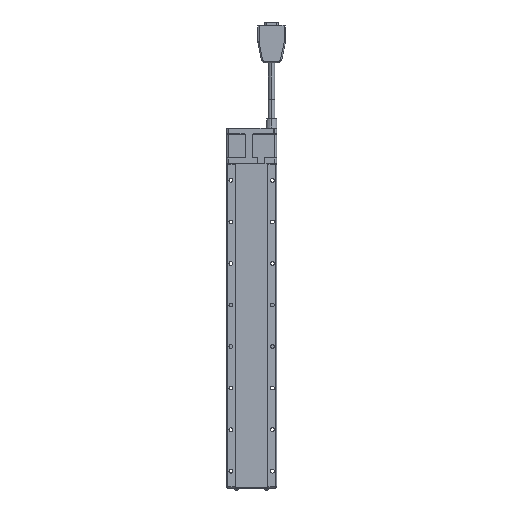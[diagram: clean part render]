
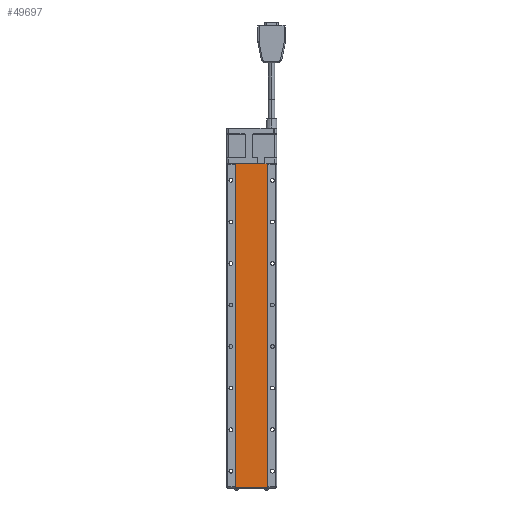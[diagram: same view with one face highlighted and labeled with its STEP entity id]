
A CAD part, front view. The second image highlights one B-rep face of the part: STEP entity #49697.
In plain terms, the highlighted planar face has unit normal (0, -1, 0).
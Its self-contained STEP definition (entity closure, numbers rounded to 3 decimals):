
#8667 = CARTESIAN_POINT ( 'NONE',  ( -19.3, 0.8, 389.8 ) ) ;
#9026 = CARTESIAN_POINT ( 'NONE',  ( -19.3, 0.8, 0.2 ) ) ;
#10241 = PLANE ( 'NONE',  #143667 ) ;
#17578 = CARTESIAN_POINT ( 'NONE',  ( -19.3, 0.8, 0.2 ) ) ;
#22595 = VECTOR ( 'NONE', #44085, 1000. ) ;
#23760 = VERTEX_POINT ( 'NONE', #116475 ) ;
#26806 = EDGE_LOOP ( 'NONE', ( #128571, #129726, #108018, #44314 ) ) ;
#27137 = CARTESIAN_POINT ( 'NONE',  ( -19.3, 0.8, 389.8 ) ) ;
#32019 = EDGE_CURVE ( 'NONE', #123424, #61254, #125103, .T. ) ;
#33837 = VERTEX_POINT ( 'NONE', #27137 ) ;
#43046 = DIRECTION ( 'NONE',  ( 0., 0., 1. ) ) ;
#44085 = DIRECTION ( 'NONE',  ( -1., 0., 0. ) ) ;
#44314 = ORIENTED_EDGE ( 'NONE', *, *, #50035, .T. ) ;
#47462 = EDGE_CURVE ( 'NONE', #23760, #123424, #87987, .T. ) ;
#49697 = ADVANCED_FACE ( 'NONE', ( #56644 ), #10241, .F. ) ;
#50035 = EDGE_CURVE ( 'NONE', #61254, #33837, #119662, .T. ) ;
#53105 = DIRECTION ( 'NONE',  ( 1., 0., 0. ) ) ;
#56644 = FACE_OUTER_BOUND ( 'NONE', #26806, .T. ) ;
#61254 = VERTEX_POINT ( 'NONE', #149403 ) ;
#66319 = DIRECTION ( 'NONE',  ( 0., 0., -1. ) ) ;
#75632 = CARTESIAN_POINT ( 'NONE',  ( 19.3, 0.8, 0.2 ) ) ;
#78976 = CARTESIAN_POINT ( 'NONE',  ( -19.3, 0.8, 389.8 ) ) ;
#87987 = LINE ( 'NONE', #17578, #106046 ) ;
#92713 = EDGE_CURVE ( 'NONE', #33837, #23760, #138292, .T. ) ;
#92762 = CARTESIAN_POINT ( 'NONE',  ( 19.3, 0.8, 0.2 ) ) ;
#106046 = VECTOR ( 'NONE', #53105, 1000. ) ;
#108018 = ORIENTED_EDGE ( 'NONE', *, *, #32019, .T. ) ;
#116475 = CARTESIAN_POINT ( 'NONE',  ( -19.3, 0.8, 0.2 ) ) ;
#119662 = LINE ( 'NONE', #78976, #22595 ) ;
#121042 = VECTOR ( 'NONE', #43046, 1000. ) ;
#123424 = VERTEX_POINT ( 'NONE', #92762 ) ;
#125103 = LINE ( 'NONE', #75632, #121042 ) ;
#128571 = ORIENTED_EDGE ( 'NONE', *, *, #92713, .T. ) ;
#129726 = ORIENTED_EDGE ( 'NONE', *, *, #47462, .T. ) ;
#135782 = VECTOR ( 'NONE', #66319, 1000. ) ;
#138292 = LINE ( 'NONE', #9026, #135782 ) ;
#143667 = AXIS2_PLACEMENT_3D ( 'NONE', #8667, #151813, #152590 ) ;
#149403 = CARTESIAN_POINT ( 'NONE',  ( 19.3, 0.8, 389.8 ) ) ;
#151813 = DIRECTION ( 'NONE',  ( 0., 1., 0. ) ) ;
#152590 = DIRECTION ( 'NONE',  ( -1., 0., 0. ) ) ;
